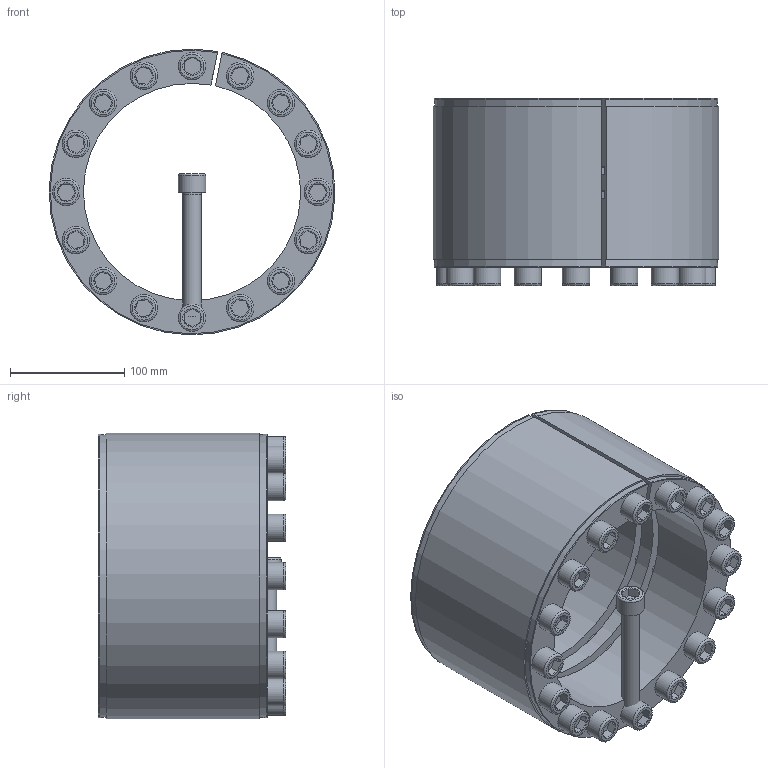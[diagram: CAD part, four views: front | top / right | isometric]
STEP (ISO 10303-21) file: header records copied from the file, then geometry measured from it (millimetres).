
FILE_DESCRIPTION( ( 'Unknown' ), '1' );
FILE_NAME( 'C:/Dokumente und Einstellungen/Sven/Desktop/homepage/cad - homepage/KBS11/KBS 11 - 190 x 250.stp', 'Unknown', ( 'Unknown' ), ( 'Unknown' ), 'XStep 1.0', 'Unknown', ' ' );
FILE_SCHEMA( ( 'automotive_design' ) );
Length unit declared in the file: millimetre
Products named in the file (3): Assem1; KBS 11 - 190 x 250; ISO EN DIN 4762 M16x110
Bounding box: 249.93 x 164 x 249.97 mm (x, y, z)
Volume: 5233311.6 mm3; surface area: 954780.4 mm2
Topology: 19 solids, 19 shells, 561 faces, 1189 edges, 734 vertices
Faces by surface type: plane 224, cylinder 176, cone 127, torus 34
Full cylindrical faces by diameter (mm): 13 x17, 16 x130, 24 x17
Entity records: 3550 total; most frequent: CARTESIAN_POINT 541, DIRECTION 524, ORIENTED_EDGE 370, EDGE_LOOP 248, AXIS2_PLACEMENT_3D 242, EDGE_CURVE 185, VERTEX_POINT 155, FACE_OUTER_BOUND 147
